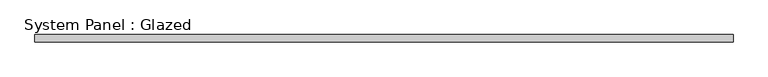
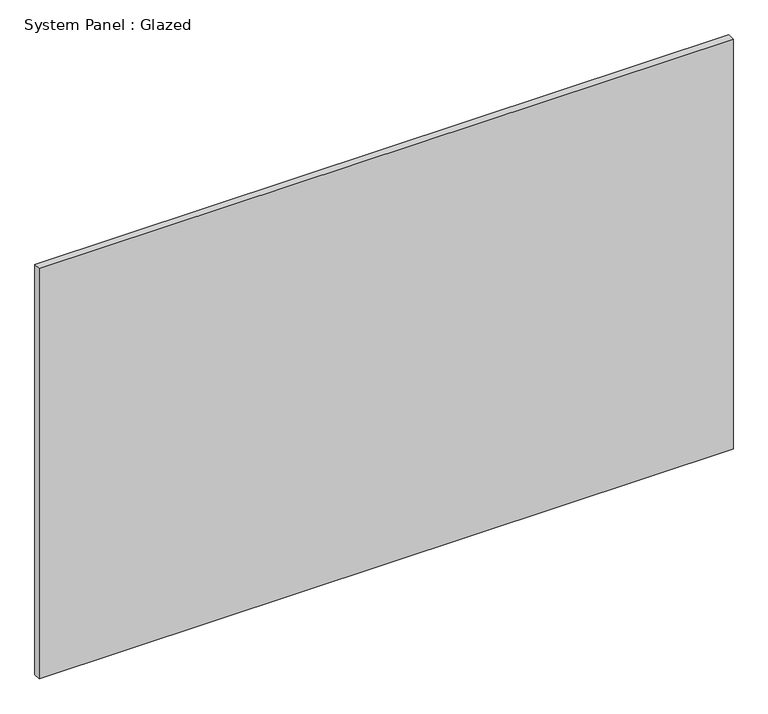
"""IFC4 building model written with IfcOpenShell, lengths in millimetres: plate geometry, System Panel : Glazed."""

from ifc_helpers import new_model, si_unit, origin, origin_with_axes, place, context, project, spatial, polyline, outline, extrude, source, transform, mapped, element, save


def system_panel_glazed_a610d18d(model_context):
    return source(origin(), model_context, "Body", "SweptSolid", [
        extrude(outline(polyline([(1219.2, 19.05), (-1219.2, 19.05), (-1219.2, 44.45), (1219.2, 44.45), (1219.2, 19.05)])), origin_with_axes(), (0.0, 0.0, 1.0), 1524.0),
    ])


if __name__ == "__main__":
    model = new_model("IFC4")
    model_context = context("Model", 3, world=origin())
    ifc_project = project(units=[si_unit("LENGTHUNIT", "METRE", prefix="MILLI")], contexts=[model_context])
    site = spatial("IfcSite", under=ifc_project)
    building = spatial("IfcBuilding", under=site)
    placement = place(None, origin())
    system_panel_glazed_shape = system_panel_glazed_a610d18d(model_context)
    element("IfcPlate", 1, ObjectType="System Panel : Glazed", at=placement, inside=building, context=model_context, shape_type="MappedRepresentation", body=[
        mapped(system_panel_glazed_shape, transform((0.0, 0.0, 0.0), x_axis=(1.0, 0.0, 0.0), y_axis=(0.0, 1.0, 0.0), z_axis=(0.0, 0.0, 1.0))),
    ])
    save(model, "model.ifc")
